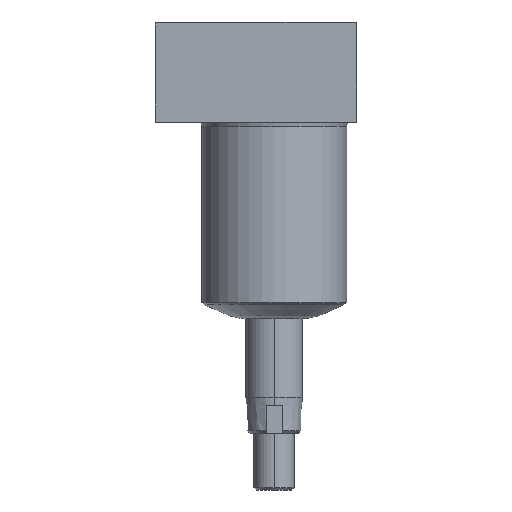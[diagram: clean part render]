
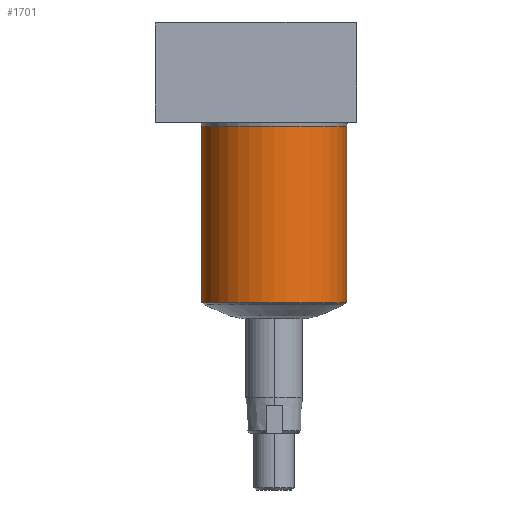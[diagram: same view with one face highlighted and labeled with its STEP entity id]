
A CAD part, front view. The second image highlights one B-rep face of the part: STEP entity #1701.
In plain terms, the highlighted cylindrical face has radius 17.95 mm (diameter 35.9 mm), a partial arc.
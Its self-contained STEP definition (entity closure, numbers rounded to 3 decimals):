
#89 = DIRECTION ( 'NONE',  ( -1., 0., 0. ) ) ;
#111 = CARTESIAN_POINT ( 'NONE',  ( 17.95, 0., 48.5 ) ) ;
#118 = ORIENTED_EDGE ( 'NONE', *, *, #641, .T. ) ;
#172 = EDGE_CURVE ( 'NONE', #2075, #343, #192, .T. ) ;
#192 = CIRCLE ( 'NONE', #305, 17.95 ) ;
#299 = DIRECTION ( 'NONE',  ( 0., 0., 1. ) ) ;
#305 = AXIS2_PLACEMENT_3D ( 'NONE', #1848, #299, #977 ) ;
#343 = VERTEX_POINT ( 'NONE', #756 ) ;
#408 = AXIS2_PLACEMENT_3D ( 'NONE', #1032, #1073, #527 ) ;
#446 = VECTOR ( 'NONE', #1214, 1000. ) ;
#527 = DIRECTION ( 'NONE',  ( 1., 0., 0. ) ) ;
#638 = FACE_OUTER_BOUND ( 'NONE', #963, .T. ) ;
#641 = EDGE_CURVE ( 'NONE', #1540, #1676, #1078, .T. ) ;
#669 = EDGE_CURVE ( 'NONE', #1676, #2075, #1229, .T. ) ;
#695 = CARTESIAN_POINT ( 'NONE',  ( -17.95, 0., 3.924 ) ) ;
#756 = CARTESIAN_POINT ( 'NONE',  ( 17.95, 0., 3.924 ) ) ;
#792 = DIRECTION ( 'NONE',  ( 0., 0., -1. ) ) ;
#963 = EDGE_LOOP ( 'NONE', ( #1344, #118, #1890, #1099 ) ) ;
#977 = DIRECTION ( 'NONE',  ( -1., 0., 0. ) ) ;
#1032 = CARTESIAN_POINT ( 'NONE',  ( 0., 0., 47.7 ) ) ;
#1073 = DIRECTION ( 'NONE',  ( 0., 0., -1. ) ) ;
#1078 = CIRCLE ( 'NONE', #408, 17.95 ) ;
#1099 = ORIENTED_EDGE ( 'NONE', *, *, #172, .T. ) ;
#1107 = CARTESIAN_POINT ( 'NONE',  ( 0., 0., 48.5 ) ) ;
#1214 = DIRECTION ( 'NONE',  ( 0., 0., -1. ) ) ;
#1229 = LINE ( 'NONE', #1522, #446 ) ;
#1234 = DIRECTION ( 'NONE',  ( 0., 0., -1. ) ) ;
#1295 = CARTESIAN_POINT ( 'NONE',  ( -17.95, 0., 47.7 ) ) ;
#1306 = CYLINDRICAL_SURFACE ( 'NONE', #1758, 17.95 ) ;
#1344 = ORIENTED_EDGE ( 'NONE', *, *, #1760, .F. ) ;
#1522 = CARTESIAN_POINT ( 'NONE',  ( -17.95, 0., 48.5 ) ) ;
#1540 = VERTEX_POINT ( 'NONE', #1574 ) ;
#1574 = CARTESIAN_POINT ( 'NONE',  ( 17.95, 0., 47.7 ) ) ;
#1676 = VERTEX_POINT ( 'NONE', #1295 ) ;
#1701 = ADVANCED_FACE ( 'NONE', ( #638 ), #1306, .T. ) ;
#1758 = AXIS2_PLACEMENT_3D ( 'NONE', #1107, #1234, #89 ) ;
#1760 = EDGE_CURVE ( 'NONE', #1540, #343, #1782, .T. ) ;
#1782 = LINE ( 'NONE', #111, #1934 ) ;
#1848 = CARTESIAN_POINT ( 'NONE',  ( 0., 0., 3.924 ) ) ;
#1890 = ORIENTED_EDGE ( 'NONE', *, *, #669, .T. ) ;
#1934 = VECTOR ( 'NONE', #792, 1000. ) ;
#2075 = VERTEX_POINT ( 'NONE', #695 ) ;
